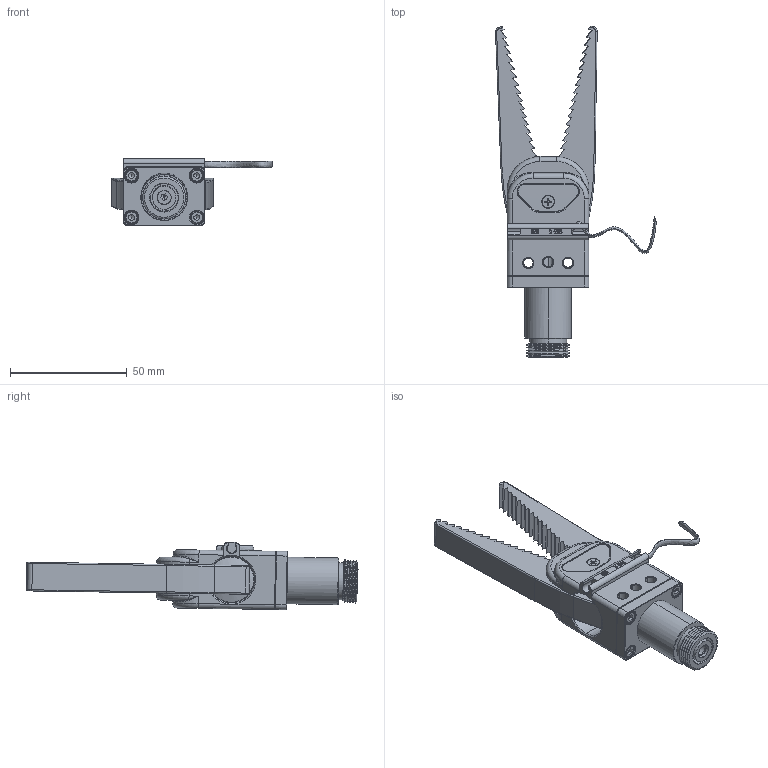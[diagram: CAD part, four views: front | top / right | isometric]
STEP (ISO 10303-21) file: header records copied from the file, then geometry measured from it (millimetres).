
FILE_DESCRIPTION (( 'STEP AP203' ), '1' );
FILE_NAME ('GR20-20-D.STEP', '2023-12-27T09:00:13', ( '微软用户' ), ( '微软中国' ), 'SwSTEP 2.0', 'SolidWorks 2018', '' );
FILE_SCHEMA (( 'CONFIG_CONTROL_DESIGN' ));
Length unit declared in the file: millimetre
Products named in the file (1): GR20-20-D
Bounding box: 69.05 x 142.4 x 28.88 mm (x, y, z)
Volume: 59576.9 mm3; surface area: 31010.3 mm2
Topology: 27 solids, 27 shells, 1235 faces, 3067 edges, 1930 vertices
Faces by surface type: plane 449, cylinder 353, cone 251, bspline 110, torus 68, sphere 4
Entity records: 49248 total; most frequent: CARTESIAN_POINT 22999, ORIENTED_EDGE 6110, DIRECTION 4306, EDGE_CURVE 3055, VERTEX_POINT 1930, AXIS2_PLACEMENT_3D 1761, B_SPLINE_CURVE_WITH_KNOTS 1628, EDGE_LOOP 1335
